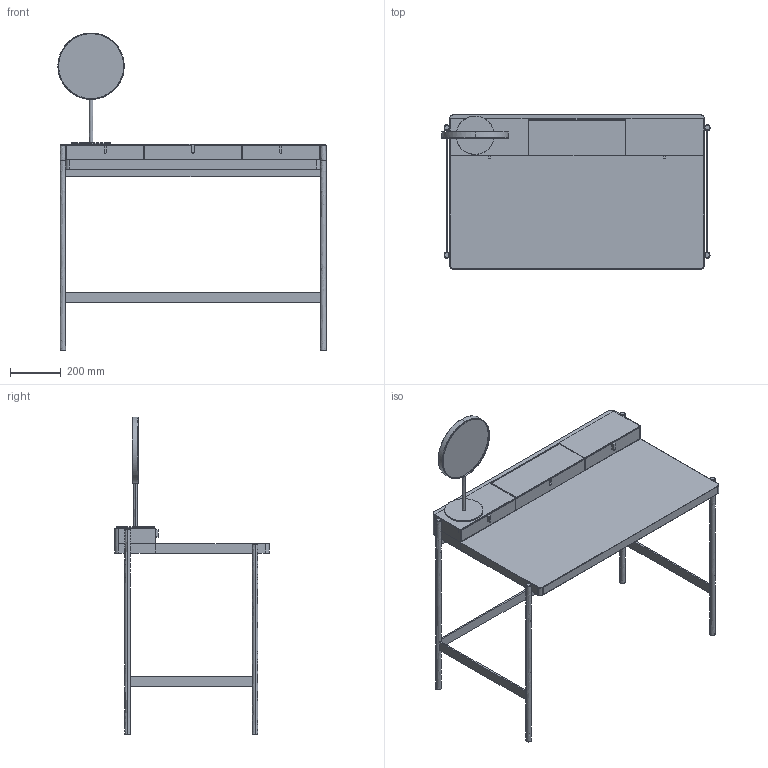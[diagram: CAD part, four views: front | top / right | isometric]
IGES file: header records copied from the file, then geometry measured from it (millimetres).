
Start section: Comment
Global section: file name: PS20 + Spiegel.igs; native system:  By UGS Corp.; preprocessor: XPlus GENERIC/IGES 3.0; author: Author; organization: Title; date: 20200831.092512; units: inch
Bounding box: 1051.88 x 605 x 1247.8 mm (x, y, z)
Surface area: 2875625 mm2 (no closed solid volume)
Topology: 0 solids, 0 shells, 169 faces, 920 edges, 920 vertices
Faces by surface type: bspline 169
